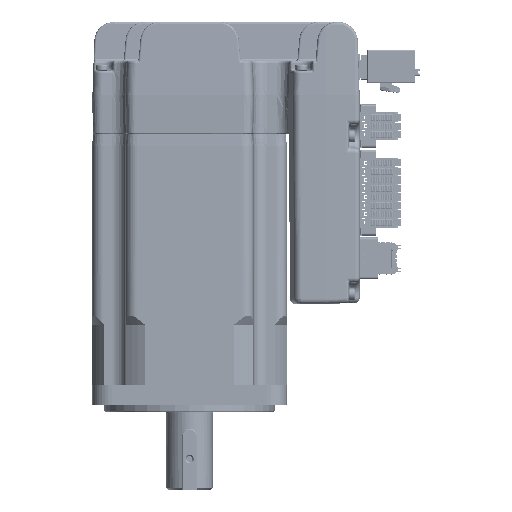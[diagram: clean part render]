
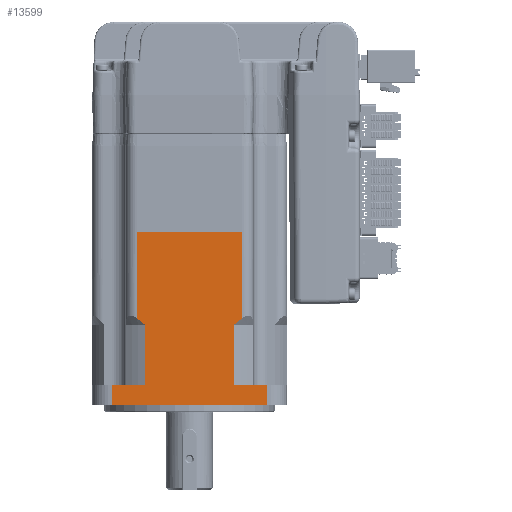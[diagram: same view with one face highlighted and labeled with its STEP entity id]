
A CAD part, left-side view. The second image highlights one B-rep face of the part: STEP entity #13599.
In plain terms, the highlighted planar face has unit normal (-1, 0, 0).
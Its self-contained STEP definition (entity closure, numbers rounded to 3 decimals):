
#3264=DIRECTION('',(0.,-1.,0.));
#3265=VECTOR('',#3264,13.67);
#3266=CARTESIAN_POINT('',(1.941,23.611,-113.1));
#3267=LINE('',#3266,#3265);
#3268=DIRECTION('',(0.,1.,0.));
#3269=VECTOR('',#3268,64.);
#3270=CARTESIAN_POINT('',(1.941,9.941,-121.1));
#3271=LINE('',#3270,#3269);
#3272=DIRECTION('',(0.,-1.,0.));
#3273=VECTOR('',#3272,13.67);
#3274=CARTESIAN_POINT('',(1.941,73.941,-113.1));
#3275=LINE('',#3274,#3273);
#3276=DIRECTION('',(0.,-1.,0.));
#3277=VECTOR('',#3276,43.5);
#3278=CARTESIAN_POINT('',(1.941,63.691,-50.1));
#3279=LINE('',#3278,#3277);
#3284=DIRECTION('',(0.,0.,1.));
#3285=VECTOR('',#3284,25.);
#3286=CARTESIAN_POINT('',(1.941,23.611,-113.1));
#3287=LINE('',#3286,#3285);
#3292=DIRECTION('',(0.,0.,1.));
#3293=VECTOR('',#3292,35.348);
#3294=CARTESIAN_POINT('',(1.941,20.191,-85.448));
#3295=LINE('',#3294,#3293);
#3792=DIRECTION('',(0.,0.,-1.));
#3793=VECTOR('',#3792,25.);
#3794=CARTESIAN_POINT('',(1.941,60.272,-88.1));
#3795=LINE('',#3794,#3793);
#3807=CARTESIAN_POINT('',(1.941,63.691,-85.448));
#3808=CARTESIAN_POINT('',(1.941,63.313,-85.762));
#3809=CARTESIAN_POINT('',(1.941,62.555,-86.376));
#3810=CARTESIAN_POINT('',(1.941,61.416,-87.26));
#3811=CARTESIAN_POINT('',(1.941,60.654,-87.824));
#3812=CARTESIAN_POINT('',(1.941,60.272,-88.1));
#3828=DIRECTION('',(0.,0.,-1.));
#3829=VECTOR('',#3828,35.348);
#3830=CARTESIAN_POINT('',(1.941,63.691,-50.1));
#3831=LINE('',#3830,#3829);
#3853=DIRECTION('',(0.,0.,-1.));
#3854=VECTOR('',#3853,8.);
#3855=CARTESIAN_POINT('',(1.941,73.941,-113.1));
#3856=LINE('',#3855,#3854);
#4011=DIRECTION('',(0.,0.,1.));
#4012=VECTOR('',#4011,8.);
#4013=CARTESIAN_POINT('',(1.941,9.941,-121.1));
#4014=LINE('',#4013,#4012);
#4150=CARTESIAN_POINT('',(1.941,23.611,-88.1));
#4151=CARTESIAN_POINT('',(1.941,23.229,-87.824));
#4152=CARTESIAN_POINT('',(1.941,22.466,-87.26));
#4153=CARTESIAN_POINT('',(1.941,21.327,-86.376));
#4154=CARTESIAN_POINT('',(1.941,20.57,-85.761));
#4155=CARTESIAN_POINT('',(1.941,20.191,-85.448));
#5769=CARTESIAN_POINT('',(1.941,9.941,-121.1));
#5770=CARTESIAN_POINT('',(1.941,73.941,-121.1));
#5771=VERTEX_POINT('',#5769);
#5772=VERTEX_POINT('',#5770);
#5801=CARTESIAN_POINT('',(1.941,23.611,-113.1));
#5802=CARTESIAN_POINT('',(1.941,23.611,-88.1));
#5803=VERTEX_POINT('',#5801);
#5804=VERTEX_POINT('',#5802);
#5805=CARTESIAN_POINT('',(1.941,9.941,-113.1));
#5806=VERTEX_POINT('',#5805);
#5807=CARTESIAN_POINT('',(1.941,73.941,-113.1));
#5808=VERTEX_POINT('',#5807);
#5809=CARTESIAN_POINT('',(1.941,60.272,-113.1));
#5810=VERTEX_POINT('',#5809);
#5811=CARTESIAN_POINT('',(1.941,60.272,-88.1));
#5812=VERTEX_POINT('',#5811);
#5813=VERTEX_POINT('',#3807);
#5814=CARTESIAN_POINT('',(1.941,63.691,-50.1));
#5815=VERTEX_POINT('',#5814);
#5816=CARTESIAN_POINT('',(1.941,20.191,-50.1));
#5817=VERTEX_POINT('',#5816);
#5818=CARTESIAN_POINT('',(1.941,20.191,-85.448));
#5819=VERTEX_POINT('',#5818);
#13569=CARTESIAN_POINT('',(1.941,81.941,-113.1));
#13570=DIRECTION('',(1.,0.,0.));
#13571=DIRECTION('',(0.,1.,0.));
#13572=AXIS2_PLACEMENT_3D('',#13569,#13570,#13571);
#13573=PLANE('',#13572);
#13575=ORIENTED_EDGE('',*,*,#13574,.F.);
#13577=ORIENTED_EDGE('',*,*,#13576,.T.);
#13579=ORIENTED_EDGE('',*,*,#13578,.F.);
#13580=ORIENTED_EDGE('',*,*,#13521,.T.);
#13582=ORIENTED_EDGE('',*,*,#13581,.F.);
#13584=ORIENTED_EDGE('',*,*,#13583,.T.);
#13586=ORIENTED_EDGE('',*,*,#13585,.F.);
#13588=ORIENTED_EDGE('',*,*,#13587,.F.);
#13590=ORIENTED_EDGE('',*,*,#13589,.F.);
#13592=ORIENTED_EDGE('',*,*,#13591,.T.);
#13594=ORIENTED_EDGE('',*,*,#13593,.F.);
#13596=ORIENTED_EDGE('',*,*,#13595,.F.);
#13597=EDGE_LOOP('',(#13575,#13577,#13579,#13580,#13582,#13584,#13586,#13588,
#13590,#13592,#13594,#13596));
#13598=FACE_OUTER_BOUND('',#13597,.F.);
#13599=ADVANCED_FACE('',(#13598),#13573,.F.);
#3813=B_SPLINE_CURVE_WITH_KNOTS('',3,(#3807,#3808,#3809,#3810,#3811,#3812),
.UNSPECIFIED.,.F.,.F.,(4,1,1,4),(0.,0.333,0.667,1.),
.UNSPECIFIED.);
#4156=B_SPLINE_CURVE_WITH_KNOTS('',3,(#4150,#4151,#4152,#4153,#4154,#4155),
.UNSPECIFIED.,.F.,.F.,(4,1,1,4),(0.,0.333,0.667,1.),
.UNSPECIFIED.);
#13521=EDGE_CURVE('',#5771,#5772,#3271,.T.);
#13574=EDGE_CURVE('',#5803,#5804,#3287,.T.);
#13576=EDGE_CURVE('',#5803,#5806,#3267,.T.);
#13578=EDGE_CURVE('',#5771,#5806,#4014,.T.);
#13581=EDGE_CURVE('',#5808,#5772,#3856,.T.);
#13583=EDGE_CURVE('',#5808,#5810,#3275,.T.);
#13585=EDGE_CURVE('',#5812,#5810,#3795,.T.);
#13587=EDGE_CURVE('',#5813,#5812,#3813,.T.);
#13589=EDGE_CURVE('',#5815,#5813,#3831,.T.);
#13591=EDGE_CURVE('',#5815,#5817,#3279,.T.);
#13593=EDGE_CURVE('',#5819,#5817,#3295,.T.);
#13595=EDGE_CURVE('',#5804,#5819,#4156,.T.);
